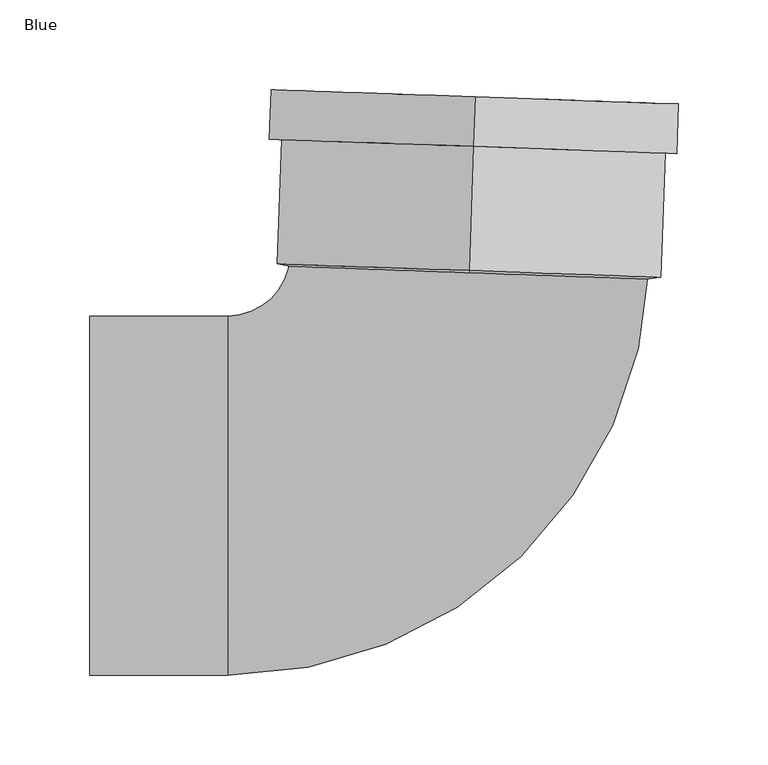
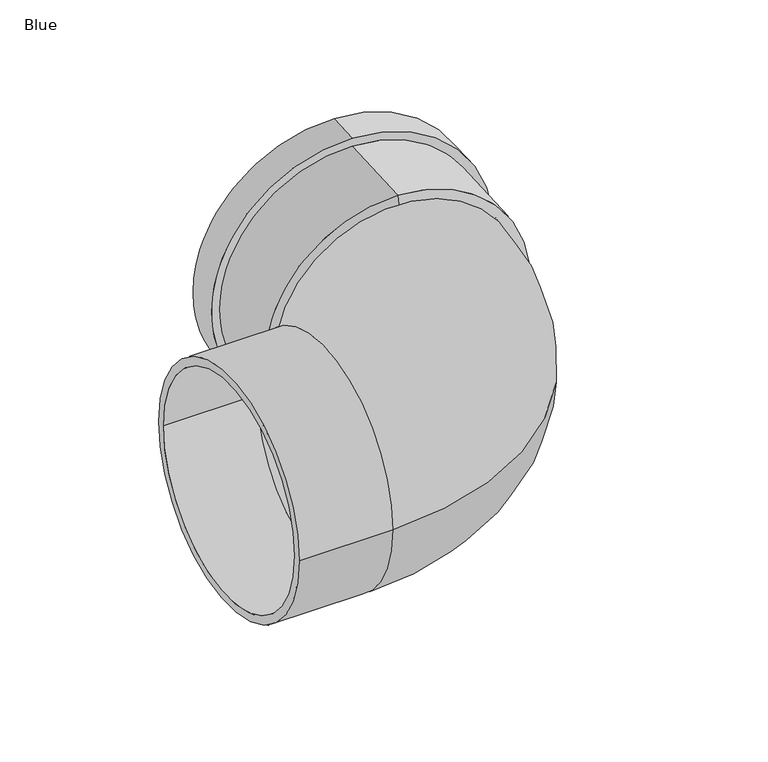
"""IFC4 building model written with IfcOpenShell, lengths in millimetres: pipe fitting geometry, AWADUKT PP SN10 Bend : Blue."""

from ifc_helpers import new_model, si_unit, point, frame, origin, place, context, project, spatial, polyline, circle_curve, ellipse_curve, trimmed, source, transform, mapped, element, save
from ifc_brep_helpers import plane_surface, cylinder_surface, revolved_surface, advanced_brep


def blue_4c46b765(model_context):
    return source(origin(), model_context, "Body", "AdvancedBrep", [
        advanced_brep(
        [(6.7914421, 194.4814549, 106.9), (6.7914421, 194.4814549, -106.9), (4.3773346, 125.3504621, -106.9), (4.3773346, 125.3504621, 106.9), (7.7546682, 222.0646418, 113.8), (7.7546682, 222.0646418, -113.8), (6.7914421, 194.4814549, -113.8), (6.7914421, 194.4814549, 113.8), (7.5138616, 215.1688451, 100.0), (7.5138616, 215.1688451, -100.0), (7.7546682, 222.0646418, -100.0), (7.7546682, 222.0646418, 100.0), (7.0322486, 201.3772516, 106.9), (7.0322486, 201.3772516, -106.9), (7.5138616, 215.1688451, -106.9), (7.5138616, 215.1688451, 106.9), (4.5793953, 131.1367225, 100.0), (4.5793953, 131.1367225, -100.0), (7.0322486, 201.3772516, -100.0), (7.0322486, 201.3772516, 100.0), (4.5369346, 129.9208075, 93.1), (4.5369346, 129.9208075, -93.1), (4.2924132, 122.918632, 93.1), (4.2924132, 122.918632, -93.1)],
        [
            (0, 1, circle_curve(frame((6.7914421, 194.4814549, 0.0), z_axis=(-0.034899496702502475, -0.9993908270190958, 0.0), x_axis=(0.0, 0.0, -1.0)), 106.9)),
            (1, 2),
            (2, 3, circle_curve(frame((4.3773346, 125.3504621, 0.0), z_axis=(0.034899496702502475, 0.9993908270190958, 0.0), x_axis=(0.0, 0.0, -1.0)), 106.9)),
            (3, 0),
            (4, 5, circle_curve(frame((7.7546682, 222.0646418, 0.0), z_axis=(-0.034899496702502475, -0.9993908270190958, 0.0), x_axis=(0.0, 0.0, -1.0)), 113.8)),
            (5, 6),
            (6, 7, circle_curve(frame((6.7914421, 194.4814549, 0.0), z_axis=(0.034899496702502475, 0.9993908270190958, 0.0), x_axis=(0.0, 0.0, -1.0)), 113.8)),
            (7, 4),
            (8, 9, circle_curve(frame((7.5138616, 215.1688451, 0.0), z_axis=(-0.034899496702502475, -0.9993908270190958, 0.0), x_axis=(0.0, 0.0, -1.0)), 100.0)),
            (9, 10),
            (10, 11, circle_curve(frame((7.7546682, 222.0646418, 0.0), z_axis=(0.034899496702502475, 0.9993908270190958, 0.0), x_axis=(0.0, 0.0, -1.0)), 100.0)),
            (11, 8),
            (12, 13, circle_curve(frame((7.0322486, 201.3772516, 0.0), z_axis=(-0.034899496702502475, -0.9993908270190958, 0.0), x_axis=(0.0, 0.0, -1.0)), 106.9)),
            (13, 14),
            (14, 15, circle_curve(frame((7.5138616, 215.1688451, 0.0), z_axis=(0.034899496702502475, 0.9993908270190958, 0.0), x_axis=(0.0, 0.0, -1.0)), 106.9)),
            (15, 12),
            (16, 17, circle_curve(frame((4.5793953, 131.1367225, 0.0), z_axis=(-0.034899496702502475, -0.9993908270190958, 0.0), x_axis=(0.0, 0.0, -1.0)), 100.0)),
            (17, 18),
            (18, 19, circle_curve(frame((7.0322486, 201.3772516, 0.0), z_axis=(0.034899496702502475, 0.9993908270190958, 0.0), x_axis=(0.0, 0.0, -1.0)), 100.0)),
            (19, 16),
            (20, 21, circle_curve(frame((4.5369346, 129.9208075, 0.0), z_axis=(-0.034899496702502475, -0.9993908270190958, 0.0), x_axis=(0.0, 0.0, -1.0)), 93.1)),
            (21, 17),
            (16, 20),
            (22, 23, circle_curve(frame((4.2924132, 122.918632, 0.0), z_axis=(-0.034899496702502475, -0.9993908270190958, 0.0), x_axis=(0.0, 0.0, -1.0)), 93.1)),
            (23, 21),
            (20, 22),
            (2, 23),
            (22, 3),
            (1, 0, circle_curve(frame((6.7914421, 194.4814549, 0.0), z_axis=(-0.034899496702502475, -0.9993908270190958, 0.0), x_axis=(0.0, 0.0, 1.0)), 106.9)),
            (3, 2, circle_curve(frame((4.3773346, 125.3504621, 0.0), z_axis=(0.034899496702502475, 0.9993908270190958, 0.0), x_axis=(0.0, 0.0, 1.0)), 106.9)),
            (6, 7, circle_curve(frame((6.7914421, 194.4814549, 0.0), z_axis=(-0.034899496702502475, -0.9993908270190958, 0.0), x_axis=(0.0, 0.0, 1.0)), 113.8)),
            (5, 4, circle_curve(frame((7.7546682, 222.0646418, 0.0), z_axis=(-0.034899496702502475, -0.9993908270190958, 0.0), x_axis=(0.0, 0.0, 1.0)), 113.8)),
            (10, 11, circle_curve(frame((7.7546682, 222.0646418, 0.0), z_axis=(-0.034899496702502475, -0.9993908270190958, 0.0), x_axis=(0.0, 0.0, 1.0)), 100.0)),
            (9, 8, circle_curve(frame((7.5138616, 215.1688451, 0.0), z_axis=(-0.034899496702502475, -0.9993908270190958, 0.0), x_axis=(0.0, 0.0, 1.0)), 100.0)),
            (14, 15, circle_curve(frame((7.5138616, 215.1688451, 0.0), z_axis=(-0.034899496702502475, -0.9993908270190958, 0.0), x_axis=(0.0, 0.0, 1.0)), 106.9)),
            (13, 12, circle_curve(frame((7.0322486, 201.3772516, 0.0), z_axis=(-0.034899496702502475, -0.9993908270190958, 0.0), x_axis=(0.0, 0.0, 1.0)), 106.9)),
            (18, 19, circle_curve(frame((7.0322486, 201.3772516, 0.0), z_axis=(-0.034899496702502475, -0.9993908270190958, 0.0), x_axis=(0.0, 0.0, 1.0)), 100.0)),
            (17, 16, circle_curve(frame((4.5793953, 131.1367225, 0.0), z_axis=(-0.034899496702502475, -0.9993908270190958, 0.0), x_axis=(0.0, 0.0, 1.0)), 100.0)),
            (21, 20, circle_curve(frame((4.5369346, 129.9208075, 0.0), z_axis=(-0.034899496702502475, -0.9993908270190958, 0.0), x_axis=(0.0, 0.0, 1.0)), 93.1)),
            (23, 22, circle_curve(frame((4.2924132, 122.918632, 0.0), z_axis=(-0.034899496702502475, -0.9993908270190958, 0.0), x_axis=(0.0, 0.0, 1.0)), 93.1)),
        ],
        [
            cylinder_surface(frame((4.5369346, 129.9208075, 0.0), z_axis=(0.034899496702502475, 0.9993908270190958, 0.0), x_axis=(0.0, 0.0, -1.0)), 106.9),
            cylinder_surface(frame((4.5369346, 129.9208075, 0.0), z_axis=(0.034899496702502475, 0.9993908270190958, 0.0), x_axis=(0.0, 0.0, -1.0)), 113.8),
            revolved_surface(polyline([(7.754668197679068, 222.06464180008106, -100.0), (7.513861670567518, 215.16884509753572, -100.0)]), (4.5369346, 129.9208075, 0.0), (0.034899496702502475, 0.9993908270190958, 0.0)),
            revolved_surface(polyline([(7.513861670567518, 215.16884509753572, -106.9), (7.03224861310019, 201.37725159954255, -106.9)]), (4.5369346, 129.9208075, 0.0), (0.034899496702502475, 0.9993908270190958, 0.0)),
            revolved_surface(polyline([(7.03224861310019, 201.37725159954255, -100.0), (4.579395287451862, 131.13672250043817, -100.0)]), (4.5369346, 129.9208075, 0.0), (0.034899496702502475, 0.9993908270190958, 0.0)),
            revolved_surface(polyline([(4.5793953, 131.1367225, -100.0), (4.5369346, 129.9208075, -93.1)]), (4.5369346, 129.9208075, 0.0), (0.034899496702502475, 0.9993908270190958, 0.0)),
            revolved_surface(polyline([(4.5369346, 129.9208075, -93.1), (4.292413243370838, 122.91863199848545, -93.1)]), (4.5369346, 129.9208075, 0.0), (0.034899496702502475, 0.9993908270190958, 0.0)),
            revolved_surface(polyline([(4.2924132, 122.918632, -93.1), (4.3773346, 125.3504621, -106.9)]), (4.5369346, 129.9208075, 0.0), (0.034899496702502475, 0.9993908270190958, 0.0)),
            cylinder_surface(frame((4.5369346, 129.9208075, 0.0), z_axis=(0.034899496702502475, 0.9993908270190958, 0.0), x_axis=(0.0, 0.0, 1.0)), 106.9),
            plane_surface(frame((6.7914421, 194.4814549, 0.0), z_axis=(-0.034899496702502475, -0.9993908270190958, 0.0), x_axis=(0.0, 0.0, 1.0))),
            cylinder_surface(frame((4.5369346, 129.9208075, 0.0), z_axis=(0.034899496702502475, 0.9993908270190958, 0.0), x_axis=(0.0, 0.0, 1.0)), 113.8),
            plane_surface(frame((7.7546682, 222.0646418, 0.0), z_axis=(0.034899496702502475, 0.9993908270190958, 0.0), x_axis=(0.0, 0.0, 1.0))),
            revolved_surface(polyline([(7.754668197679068, 222.06464180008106, 100.0), (7.513861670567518, 215.16884509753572, 100.0)]), (4.5369346, 129.9208075, 0.0), (0.034899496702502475, 0.9993908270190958, 0.0)),
            plane_surface(frame((7.5138616, 215.1688451, 0.0), z_axis=(-0.034899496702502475, -0.9993908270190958, 0.0), x_axis=(0.0, 0.0, 1.0))),
            revolved_surface(polyline([(7.513861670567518, 215.16884509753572, 106.9), (7.03224861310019, 201.37725159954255, 106.9)]), (4.5369346, 129.9208075, 0.0), (0.034899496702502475, 0.9993908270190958, 0.0)),
            plane_surface(frame((7.0322486, 201.3772516, 0.0), z_axis=(0.034899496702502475, 0.9993908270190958, 0.0), x_axis=(0.0, 0.0, 1.0))),
            revolved_surface(polyline([(7.03224861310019, 201.37725159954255, 100.0), (4.579395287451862, 131.13672250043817, 100.0)]), (4.5369346, 129.9208075, 0.0), (0.034899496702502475, 0.9993908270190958, 0.0)),
            revolved_surface(polyline([(4.5793953, 131.1367225, 100.0), (4.5369346, 129.9208075, 93.1)]), (4.5369346, 129.9208075, 0.0), (0.034899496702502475, 0.9993908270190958, 0.0)),
            revolved_surface(polyline([(4.5369346, 129.9208075, 93.1), (4.292413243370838, 122.91863199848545, 93.1)]), (4.5369346, 129.9208075, 0.0), (0.034899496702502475, 0.9993908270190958, 0.0)),
            revolved_surface(polyline([(4.2924132, 122.918632, 93.1), (4.3773346, 125.3504621, 106.9)]), (4.5369346, 129.9208075, 0.0), (0.034899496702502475, 0.9993908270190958, 0.0)),
        ],
        [
            (0, [[1, 2, 3, 4]]),
            (1, [[5, 6, 7, 8]]),
            (2, [[9, 10, 11, 12]]),
            (3, [[13, 14, 15, 16]]),
            (4, [[17, 18, 19, 20]]),
            (5, [[21, 22, -17, 23]]),
            (6, [[24, 25, -21, 26]]),
            (7, [[-3, 27, -24, 28]]),
            (8, [[29, -4, 30, -2]]),
            (9, [[31, -7], [-29, -1]]),
            (10, [[32, -8, -31, -6]]),
            (11, [[-32, -5], [33, -11]]),
            (12, [[34, -12, -33, -10]]),
            (13, [[35, -15], [-34, -9]]),
            (14, [[36, -16, -35, -14]]),
            (15, [[-36, -13], [37, -19]]),
            (16, [[38, -20, -37, -18]]),
            (17, [[39, -23, -38, -22]]),
            (18, [[40, -26, -39, -25]]),
            (19, [[-30, -28, -40, -27]]),
        ],
    ),
        advanced_brep(
        [(-207.0, -100.0, 0.0), (-207.0, 100.0, 0.0), (-207.0, -93.1, 0.0), (-207.0, 93.1, 0.0), (104.4760173, 126.4308578, 0.0), (-95.4021481, 133.4107572, 0.0), (97.5802206, 126.6716644, 0.0), (-88.5063514, 133.1699507, 0.0), (-130.0, -93.1, 0.0), (-130.0, 93.1, 0.0), (-130.0, -100.0, 0.0), (-130.0, 100.0, 0.0)],
        [
            (0, 1, circle_curve(frame((-207.0, 0.0, 0.0), z_axis=(-1.0, 0.0, 0.0), x_axis=(0.0, 1.0, 0.0)), 100.0)),
            (1, 0, circle_curve(frame((-207.0, 0.0, 0.0), z_axis=(-1.0, 0.0, 0.0), x_axis=(0.0, 1.0, 0.0)), 100.0)),
            (2, 3, circle_curve(frame((-207.0, 0.0, 0.0), z_axis=(1.0, 0.0, 0.0), x_axis=(0.0, 1.0, 0.0)), 93.1)),
            (3, 2, circle_curve(frame((-207.0, 0.0, 0.0), z_axis=(1.0, 0.0, 0.0), x_axis=(0.0, 1.0, 0.0)), 93.1)),
            (4, 5, circle_curve(frame((4.5369346, 129.9208075, 0.0), z_axis=(0.03489949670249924, 0.9993908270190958, 0.0), x_axis=(-0.9993908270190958, 0.03489949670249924, 0.0)), 100.0)),
            (5, 4, circle_curve(frame((4.5369346, 129.9208075, 0.0), z_axis=(0.03489949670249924, 0.9993908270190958, 0.0), x_axis=(-0.9993908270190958, 0.03489949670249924, 0.0)), 100.0)),
            (6, 7, circle_curve(frame((4.5369346, 129.9208075, 0.0), z_axis=(-0.03489949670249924, -0.9993908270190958, 0.0), x_axis=(-0.9993908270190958, 0.03489949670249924, 0.0)), 93.1)),
            (7, 6, circle_curve(frame((4.5369346, 129.9208075, 0.0), z_axis=(-0.03489949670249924, -0.9993908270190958, 0.0), x_axis=(-0.9993908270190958, 0.03489949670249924, 0.0)), 93.1)),
            (2, 8),
            (8, 9, circle_curve(frame((-130.0, 0.0, 0.0), z_axis=(1.0, 0.0, 0.0), x_axis=(0.0, 1.0, 0.0)), 93.1)),
            (9, 3),
            (9, 8, circle_curve(frame((-130.0, 0.0, 0.0), z_axis=(1.0, 0.0, 0.0), x_axis=(0.0, 1.0, 0.0)), 93.1)),
            (0, 10),
            (10, 11, circle_curve(frame((-130.0, 0.0, 0.0), z_axis=(-1.0, 0.0, 0.0), x_axis=(0.0, 1.0, 0.0)), 100.0)),
            (11, 1),
            (11, 10, circle_curve(frame((-130.0, 0.0, 0.0), z_axis=(-1.0, 0.0, 0.0), x_axis=(0.0, 1.0, 0.0)), 100.0)),
            (7, 9, circle_curve(frame((-130.0, 134.6189408, 0.0), z_axis=(0.0, 0.0, -1.0), x_axis=(0.0, -1.0, 0.0)), 41.5189408)),
            (8, 6, circle_curve(frame((-130.0, 134.6189408, 0.0), z_axis=(0.0, 0.0, 1.0), x_axis=(0.0, -1.0, 0.0)), 227.7189408)),
            (5, 11, circle_curve(frame((-130.0, 134.6189408, 0.0), z_axis=(0.0, 0.0, -1.0), x_axis=(0.0, -1.0, 0.0)), 34.6189408)),
            (10, 4, circle_curve(frame((-130.0, 134.6189408, 0.0), z_axis=(0.0, 0.0, 1.0), x_axis=(0.0, -1.0, 0.0)), 234.6189408)),
        ],
        [
            plane_surface(frame((-207.0, 0.0, 0.0), z_axis=(-1.0, 0.0, 0.0), x_axis=(0.0, 0.0, 1.0))),
            plane_surface(frame((4.5369346, 129.9208075, 0.0), z_axis=(0.03489949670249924, 0.9993908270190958, 0.0), x_axis=(0.0, 0.0, 1.0))),
            revolved_surface(polyline([(-130.0, 93.1, 0.0), (-207.0, 93.1, 0.0)]), (-207.0, 0.0, 0.0), (1.0, 0.0, 0.0)),
            cylinder_surface(frame((-207.0, 0.0, 0.0), z_axis=(-1.0, 0.0, 0.0), x_axis=(0.0, 1.0, 0.0)), 100.0),
            revolved_surface(trimmed(ellipse_curve(frame((-130.0, 0.0, 0.0), z_axis=(1.0, 0.0, 0.0), x_axis=(0.0, 1.0, 0.0)), 93.1, 93.1), [point((-130.0, -93.1, 0.0))], [point((-130.0, 93.1, 0.0))], True, "CARTESIAN"), (-130.0, 134.6189408, 0.0), (0.0, 0.0, 1.0)),
            revolved_surface(trimmed(ellipse_curve(frame((-130.0, 0.0, 0.0), z_axis=(1.0, 0.0, 0.0), x_axis=(0.0, 1.0, 0.0)), 93.1, 93.1), [point((-130.0, 93.1, 0.0))], [point((-130.0, -93.1, 0.0))], True, "CARTESIAN"), (-130.0, 134.6189408, 0.0), (0.0, 0.0, 1.0)),
            revolved_surface(trimmed(ellipse_curve(frame((-130.0, 0.0, 0.0), z_axis=(-1.0, 0.0, 0.0), x_axis=(0.0, 1.0, 0.0)), 100.0, 100.0), [point((-130.0, -100.0, 0.0))], [point((-130.0, 100.0, 0.0))], True, "CARTESIAN"), (-130.0, 134.6189408, 0.0), (0.0, 0.0, 1.0)),
            revolved_surface(trimmed(ellipse_curve(frame((-130.0, 0.0, 0.0), z_axis=(-1.0, 0.0, 0.0), x_axis=(0.0, 1.0, 0.0)), 100.0, 100.0), [point((-130.0, 100.0, 0.0))], [point((-130.0, -100.0, 0.0))], True, "CARTESIAN"), (-130.0, 134.6189408, 0.0), (0.0, 0.0, 1.0)),
        ],
        [
            (0, [[1, 2], [3, 4]]),
            (1, [[5, 6], [7, 8]]),
            (2, [[-3, 9, 10, 11]]),
            (2, [[-4, -11, 12, -9]]),
            (3, [[-1, 13, 14, 15]]),
            (3, [[-2, -15, 16, -13]]),
            (4, [[17, -10, 18, -8]]),
            (5, [[-18, -12, -17, -7]]),
            (6, [[19, -14, 20, -6]]),
            (7, [[-20, -16, -19, -5]]),
        ],
    ),
    ])


if __name__ == "__main__":
    model = new_model("IFC4")
    model_context = context("Model", 3, world=origin())
    ifc_project = project(units=[si_unit("LENGTHUNIT", "METRE", prefix="MILLI")], contexts=[model_context])
    site = spatial("IfcSite", under=ifc_project)
    building = spatial("IfcBuilding", under=site)
    placement = place(None, origin())
    blue_shape = blue_4c46b765(model_context)
    element("IfcPipeFitting", 1, ObjectType="AWADUKT PP SN10 Bend : Blue", at=placement, inside=building, context=model_context, shape_type="MappedRepresentation", body=[
        mapped(blue_shape, transform((0.0, 0.0, 0.0), x_axis=(1.0, 0.0, 0.0), y_axis=(0.0, 1.0, 0.0), z_axis=(0.0, 0.0, 1.0))),
    ])
    save(model, "model.ifc")
